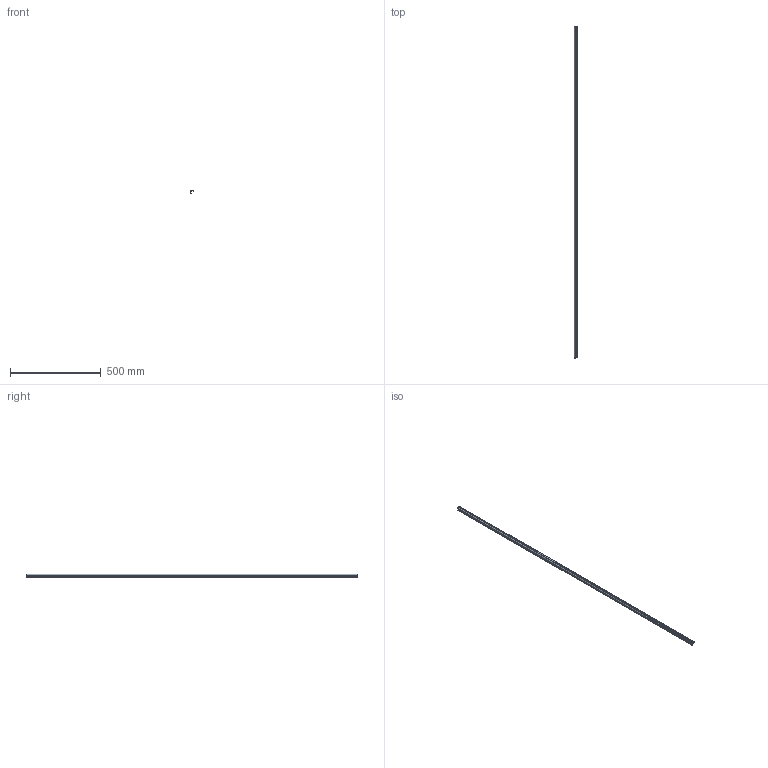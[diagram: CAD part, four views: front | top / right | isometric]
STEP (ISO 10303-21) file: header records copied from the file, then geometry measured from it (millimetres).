
FILE_DESCRIPTION (( 'STEP AP214' ), '1' );
FILE_NAME ('RKL-20080.STEP', '2023-05-14T13:43:30', ( '' ), ( '' ), 'SwSTEP 2.0', 'SolidWorks 2021', '' );
FILE_SCHEMA (( 'AUTOMOTIVE_DESIGN' ));
Length unit declared in the file: inch
Products named in the file (1): RKL-20080
Bounding box: 19.05 x 1828.8 x 19.05 mm (x, y, z)
Volume: 284913.2 mm3; surface area: 146296.4 mm2
Topology: 1 solids, 1 shells, 26 faces, 72 edges, 48 vertices
Faces by surface type: cylinder 14, plane 12
Entity records: 888 total; most frequent: DIRECTION 154, CARTESIAN_POINT 147, ORIENTED_EDGE 144, EDGE_CURVE 72, AXIS2_PLACEMENT_3D 55, VERTEX_POINT 48, LINE 44, VECTOR 44
